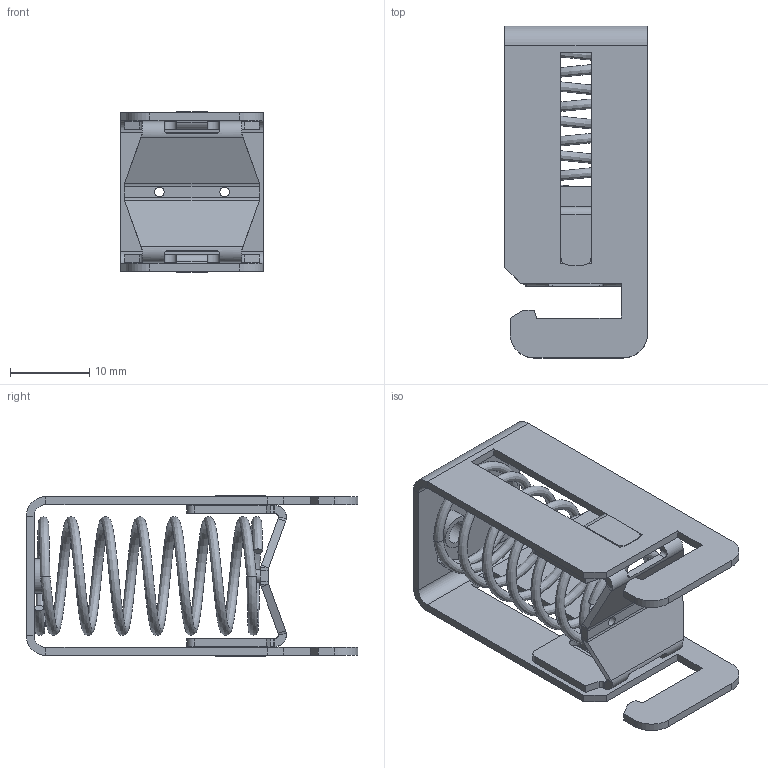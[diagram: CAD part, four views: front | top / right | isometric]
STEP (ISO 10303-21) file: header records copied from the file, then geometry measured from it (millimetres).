
FILE_DESCRIPTION(('STEP AP203'), '1');
FILE_NAME('栖闉罻', '2021-04-20T05:39:01', (''), (''), 'ASCON STEP Converter 1.6', 'ASCON Math Kernel', '');
FILE_SCHEMA(('CONFIG_CONTROL_DESIGN'));
Length unit declared in the file: millimetre
Products named in the file (1): ?ﾋﾖﾈ.687222.084
Bounding box: 18 x 41.8 x 20.16 mm (x, y, z)
Volume: 2396.9 mm3; surface area: 6006.5 mm2
Topology: 2 solids, 2 shells, 359 faces, 973 edges, 617 vertices
Faces by surface type: plane 260, cylinder 92, bspline 7
Full cylindrical faces by diameter (mm): 1.2 x2, 1.6 x2, 3 x2, 4.3 x2
Entity records: 15808 total; most frequent: CARTESIAN_POINT 6700, ORIENTED_EDGE 1924, DIRECTION 1835, EDGE_CURVE 962, LINE 731, VECTOR 731, VERTEX_POINT 617, AXIS2_PLACEMENT_3D 552
